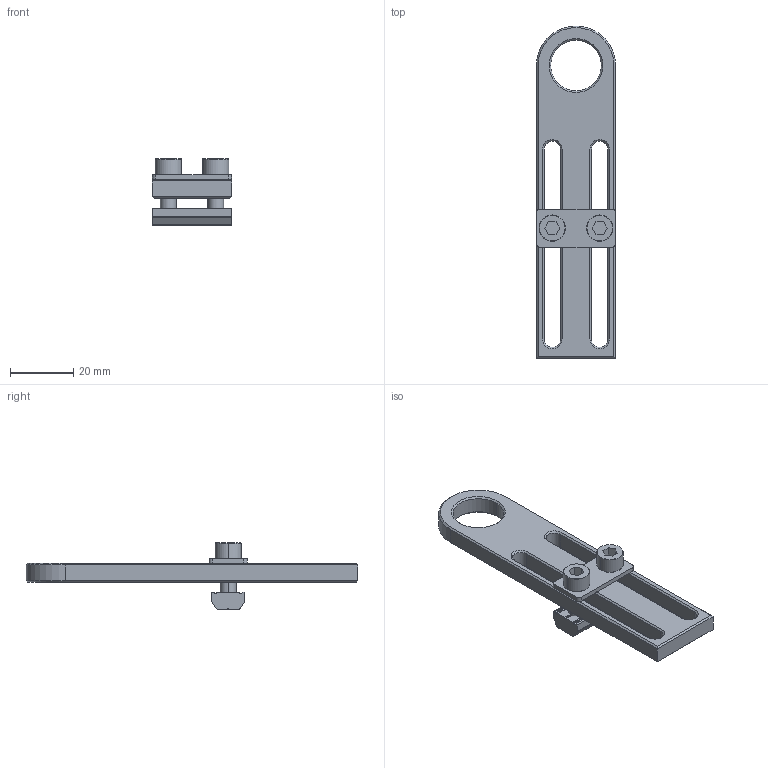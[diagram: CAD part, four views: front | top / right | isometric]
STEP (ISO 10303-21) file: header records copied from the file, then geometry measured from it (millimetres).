
FILE_DESCRIPTION (( 'STEP AP214' ), '1' );
FILE_NAME ('SMBE5-M1660T.STEP', '2023-01-09T07:19:39', ( 'Windows User' ), ( 'P R C' ), 'SwSTEP 2.0', 'SolidWorks 2018', '' );
FILE_SCHEMA (( 'AUTOMOTIVE_DESIGN' ));
Length unit declared in the file: millimetre
Products named in the file (5): PTN-M5P15; PTD-M5P15; SMBE5-M1660T; SMBE5-M1660; PTC-M5L16
Assembly tree (5 placements, depth 2):
  SMBE5-M1660T
    SMBE5-M1660
    PTC-M5L16  x2
    PTD-M5P15
    PTN-M5P15
Bounding box: 25 x 105 x 21 mm (x, y, z)
Volume: 12573.6 mm3; surface area: 9183.5 mm2
Topology: 5 solids, 5 shells, 159 faces, 407 edges, 258 vertices
Faces by surface type: plane 77, cylinder 56, cone 26
Entity records: 4557 total; most frequent: CARTESIAN_POINT 888, ORIENTED_EDGE 730, DIRECTION 711, EDGE_CURVE 365, AXIS2_PLACEMENT_3D 247, VERTEX_POINT 232, VECTOR 217, LINE 217
